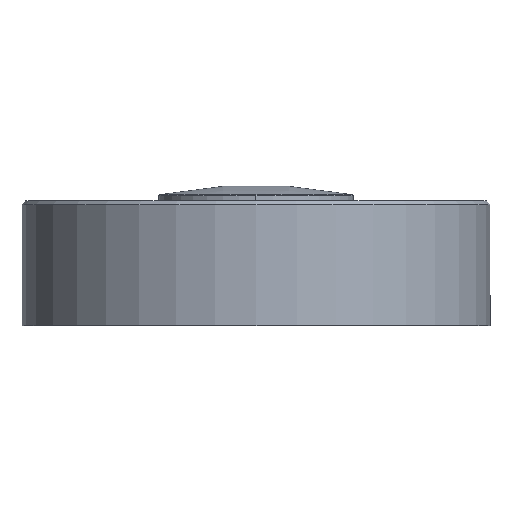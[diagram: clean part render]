
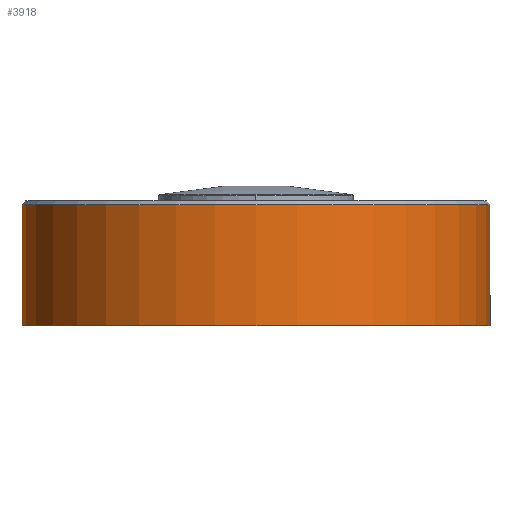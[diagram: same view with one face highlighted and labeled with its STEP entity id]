
A CAD part, left-side view. The second image highlights one B-rep face of the part: STEP entity #3918.
In plain terms, the highlighted cylindrical face has radius 95.225 mm (diameter 190.449 mm), a partial arc.
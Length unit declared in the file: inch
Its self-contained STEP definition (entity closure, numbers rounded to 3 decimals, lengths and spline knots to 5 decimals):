
#139 = VERTEX_POINT ( 'NONE', #697 ) ;
#435 = VERTEX_POINT ( 'NONE', #1282 ) ;
#648 = CIRCLE ( 'NONE', #649, 3.749 ) ;
#649 = AXIS2_PLACEMENT_3D ( 'NONE', #650, #651, #652 ) ;
#650 = CARTESIAN_POINT ( 'NONE',  ( 0., 0., -1.999 ) ) ;
#651 = DIRECTION ( 'NONE',  ( 0., 0., 1. ) ) ;
#652 = DIRECTION ( 'NONE',  ( 0., 1., 0. ) ) ;
#657 = EDGE_CURVE ( 'NONE', #7824, #435, #1447, .T. ) ;
#697 = CARTESIAN_POINT ( 'NONE',  ( 0., 3.749, -1.999 ) ) ;
#1282 = CARTESIAN_POINT ( 'NONE',  ( 0., -3.749, -1.999 ) ) ;
#1315 = CIRCLE ( 'NONE', #1316, 3.749 ) ;
#1316 = AXIS2_PLACEMENT_3D ( 'NONE', #1317, #1318, #1319 ) ;
#1317 = CARTESIAN_POINT ( 'NONE',  ( 0., 0., -0.06 ) ) ;
#1318 = DIRECTION ( 'NONE',  ( 0., 0., 1. ) ) ;
#1319 = DIRECTION ( 'NONE',  ( -1., 0., 0. ) ) ;
#1447 = LINE ( 'NONE', #1448, #1449 ) ;
#1448 = CARTESIAN_POINT ( 'NONE',  ( 0., -3.749, -0.06 ) ) ;
#1449 = VECTOR ( 'NONE', #1450, 39.37008 ) ;
#1450 = DIRECTION ( 'NONE',  ( 0., 0., -1. ) ) ;
#3159 = ORIENTED_EDGE ( 'NONE', *, *, #657, .F. ) ;
#3675 = EDGE_LOOP ( 'NONE', ( #3159, #7096, #6956, #3676 ) ) ;
#3676 = ORIENTED_EDGE ( 'NONE', *, *, #6911, .T. ) ;
#3717 = FACE_OUTER_BOUND ( 'NONE', #3675, .T. ) ;
#3718 = CYLINDRICAL_SURFACE ( 'NONE', #3719, 3.749 ) ;
#3719 = AXIS2_PLACEMENT_3D ( 'NONE', #3720, #3721, #3722 ) ;
#3720 = CARTESIAN_POINT ( 'NONE',  ( 0., 0., -0.06 ) ) ;
#3721 = DIRECTION ( 'NONE',  ( 0., 0., -1. ) ) ;
#3722 = DIRECTION ( 'NONE',  ( 0., 1., 0. ) ) ;
#3918 = ADVANCED_FACE ( 'NONE', ( #3717 ), #3718, .T. ) ;
#4173 = CARTESIAN_POINT ( 'NONE',  ( 0., 3.749, -0.06 ) ) ;
#4849 = CARTESIAN_POINT ( 'NONE',  ( 0., -3.749, -0.06 ) ) ;
#5169 = LINE ( 'NONE', #5170, #5171 ) ;
#5170 = CARTESIAN_POINT ( 'NONE',  ( 0., 3.749, -0.06 ) ) ;
#5171 = VECTOR ( 'NONE', #5172, 39.37008 ) ;
#5172 = DIRECTION ( 'NONE',  ( 0., 0., -1. ) ) ;
#6392 = EDGE_CURVE ( 'NONE', #7668, #139, #5169, .T. ) ;
#6911 = EDGE_CURVE ( 'NONE', #139, #435, #648, .T. ) ;
#6956 = ORIENTED_EDGE ( 'NONE', *, *, #6392, .T. ) ;
#7058 = EDGE_CURVE ( 'NONE', #7668, #7824, #1315, .T. ) ;
#7096 = ORIENTED_EDGE ( 'NONE', *, *, #7058, .F. ) ;
#7668 = VERTEX_POINT ( 'NONE', #4173 ) ;
#7824 = VERTEX_POINT ( 'NONE', #4849 ) ;
